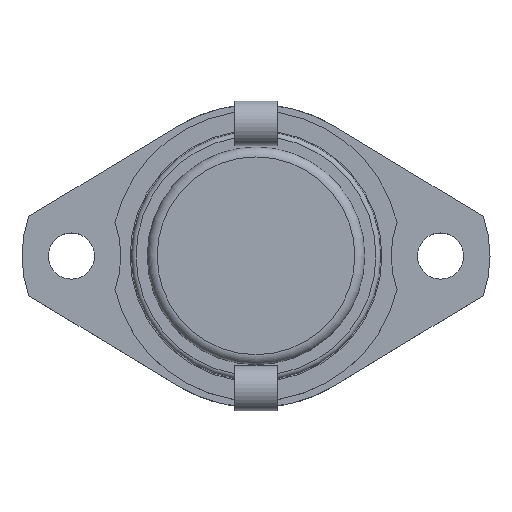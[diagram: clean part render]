
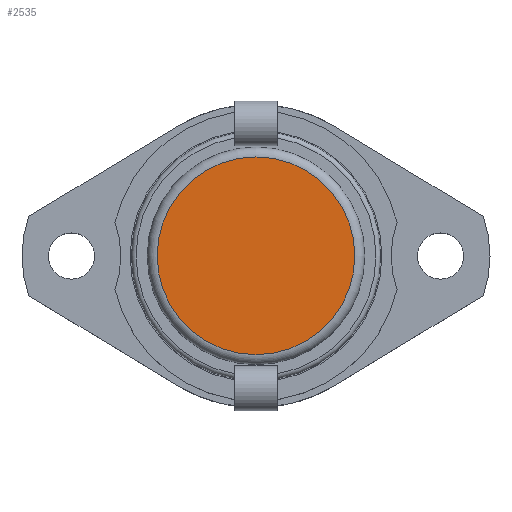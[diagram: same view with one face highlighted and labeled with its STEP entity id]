
A CAD part, top view. The second image highlights one B-rep face of the part: STEP entity #2535.
In plain terms, the highlighted planar face has unit normal (0, 0, 1).
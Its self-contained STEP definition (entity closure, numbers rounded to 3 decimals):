
#2519=CARTESIAN_POINT('',(0.0,7.5,13.3));
#2520=DIRECTION('',(0.0,0.0,1.0));
#2521=DIRECTION('',(1.0,0.0,0.0));
#2522=AXIS2_PLACEMENT_3D('',#2519,#2520,#2521);
#2523=PLANE('',#2522);
#2524=CARTESIAN_POINT('',(0.0,15.,13.3));
#2525=VERTEX_POINT('',#2524);
#2526=CARTESIAN_POINT('',(0.0,0.,13.3));
#2527=DIRECTION('',(0.0,0.0,-1.0));
#2528=DIRECTION('',(0.0,1.0,0.0));
#2529=AXIS2_PLACEMENT_3D('',#2526,#2527,#2528);
#2530=CIRCLE('',#2529,15.);
#2531=EDGE_CURVE('',#2525,#2525,#2530,.T.);
#2532=ORIENTED_EDGE('',*,*,#2531,.F.);
#2533=EDGE_LOOP('',(#2532));
#2534=FACE_OUTER_BOUND('',#2533,.T.);
#2535=ADVANCED_FACE('',(#2534),#2523,.T.);
